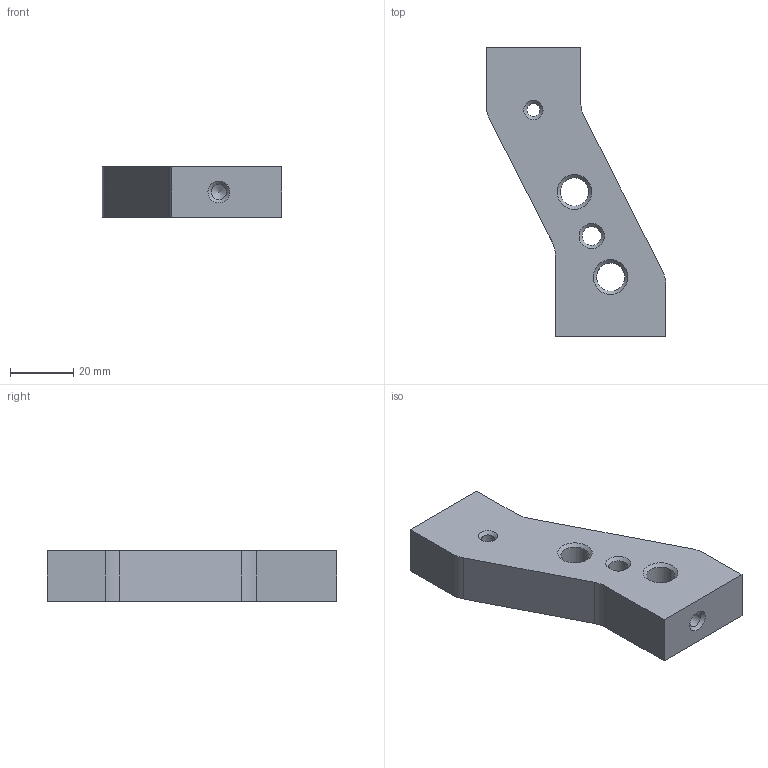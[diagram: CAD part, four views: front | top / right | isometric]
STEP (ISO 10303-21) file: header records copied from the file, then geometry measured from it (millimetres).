
FILE_DESCRIPTION(('STEP AP203'), '1');
FILE_NAME('ﾒﾏﾏﾔ1801.01.03.00.006 - ﾐ裔', '', ('UNSPECIFIED'), ('UNSPECIFIED'), 'C3D Converter', 'C3D Toolkit', '');
FILE_SCHEMA(('CONFIG_CONTROL_DESIGN'));
Length unit declared in the file: millimetre
Products named in the file (1): ТППФ1801.01.03.00.006
Bounding box: 57 x 92 x 16 mm (x, y, z)
Volume: 43071.1 mm3; surface area: 11306.6 mm2
Topology: 1 solids, 1 shells, 32 faces, 78 edges, 48 vertices
Faces by surface type: cone 12, plane 10, cylinder 10
Full cylindrical faces by diameter (mm): 4.134 x1, 4.917 x2, 6 x1, 9 x2
Entity records: 1140 total; most frequent: DIRECTION 154, CARTESIAN_POINT 137, ORIENTED_EDGE 116, AXIS2_PLACEMENT_3D 63, EDGE_LOOP 58, EDGE_CURVE 58, VERTEX_POINT 46, FACE_OUTER_BOUND 34
